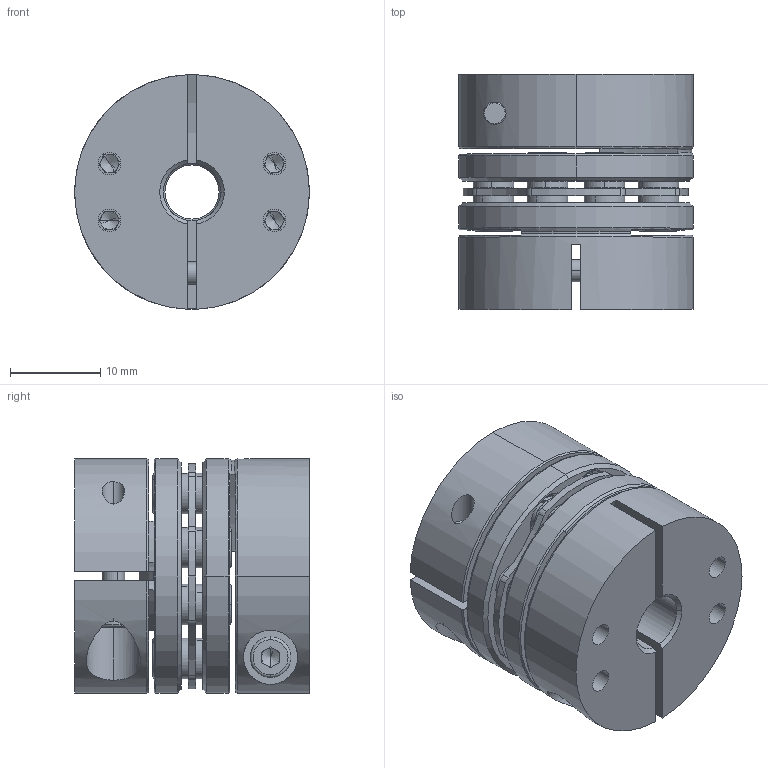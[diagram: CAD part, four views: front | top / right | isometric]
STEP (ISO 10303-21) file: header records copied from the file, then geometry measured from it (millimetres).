
FILE_DESCRIPTION (( 'STEP AP203' ), '1' );
FILE_NAME ('LDG-D26-6-6.35.STEP', '2021-10-28T03:24:41', ( '' ), ( '' ), 'SwSTEP 2.0', 'SolidWorks 2018', '' );
FILE_SCHEMA (( 'CONFIG_CONTROL_DESIGN' ));
Length unit declared in the file: millimetre
Products named in the file (2): LDG-D26-6-6.35; 錨璃2^LDG-D26蚾饜芞1
Assembly tree (1 placements, depth 2):
  LDG-D26-6-6.35
    錨璃2^LDG-D26蚾饜芞1
Bounding box: 26 x 26 x 26 mm (x, y, z)
Volume: 10560.9 mm3; surface area: 9134 mm2
Topology: 1 solids, 21 shells, 765 faces, 1872 edges, 1159 vertices
Faces by surface type: cylinder 301, plane 244, cone 200, torus 20
Entity records: 23057 total; most frequent: DIRECTION 4281, CARTESIAN_POINT 4164, ORIENTED_EDGE 3688, EDGE_CURVE 1844, AXIS2_PLACEMENT_3D 1740, VERTEX_POINT 1159, CIRCLE 971, EDGE_LOOP 909
